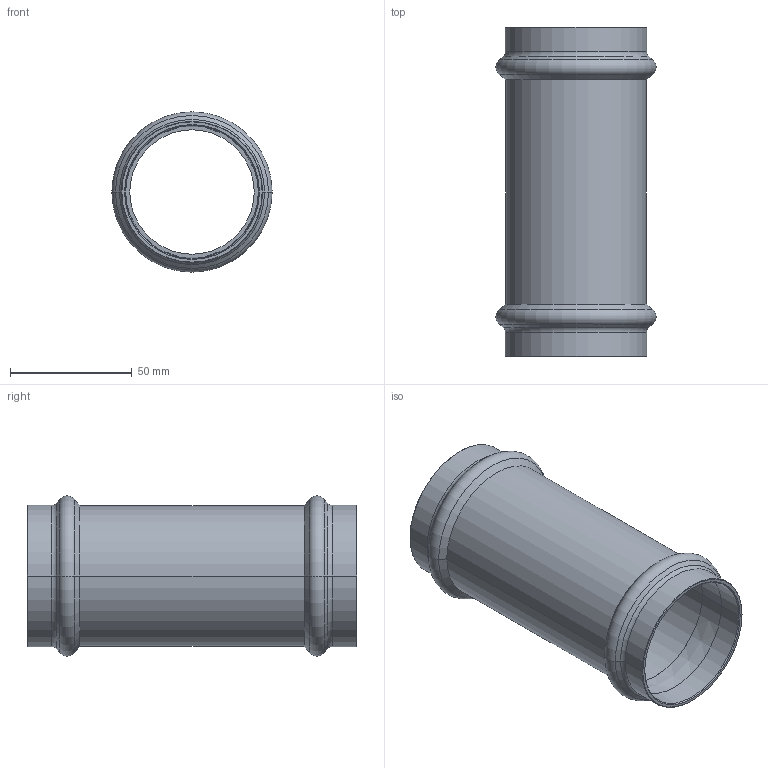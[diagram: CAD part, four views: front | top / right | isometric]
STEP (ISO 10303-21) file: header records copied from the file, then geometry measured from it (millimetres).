
FILE_DESCRIPTION(('CoCreate Modeling STEP Export'),'2;1');
FILE_NAME('8275VW54.stp','2013-01-29T12:47:33',(''),(''),'CoCreate Modeling STEP processor for AP214 (Solid Model)','CoCreate Modeling 17.00A 17-Jun-2010 (C) Parametric Technology GmbH','');
FILE_SCHEMA(('AUTOMOTIVE_DESIGN { 1 0 10303 214 1 1 1 1 }'));
Length unit declared in the file: millimetre
Products named in the file (1): 8275VW54
Bounding box: 65.68 x 135 x 65.68 mm (x, y, z)
Volume: 51125.9 mm3; surface area: 50687.3 mm2
Topology: 1 solids, 1 shells, 58 faces, 118 edges, 66 vertices
Faces by surface type: cylinder 20, cone 20, torus 12, plane 6
Entity records: 1242 total; most frequent: ORIENTED_EDGE 236, DIRECTION 194, CARTESIAN_POINT 183, EDGE_CURVE 118, AXIS2_PLACEMENT_3D 77, VERTEX_POINT 66, EDGE_LOOP 64, FACE_OUTER_BOUND 58
